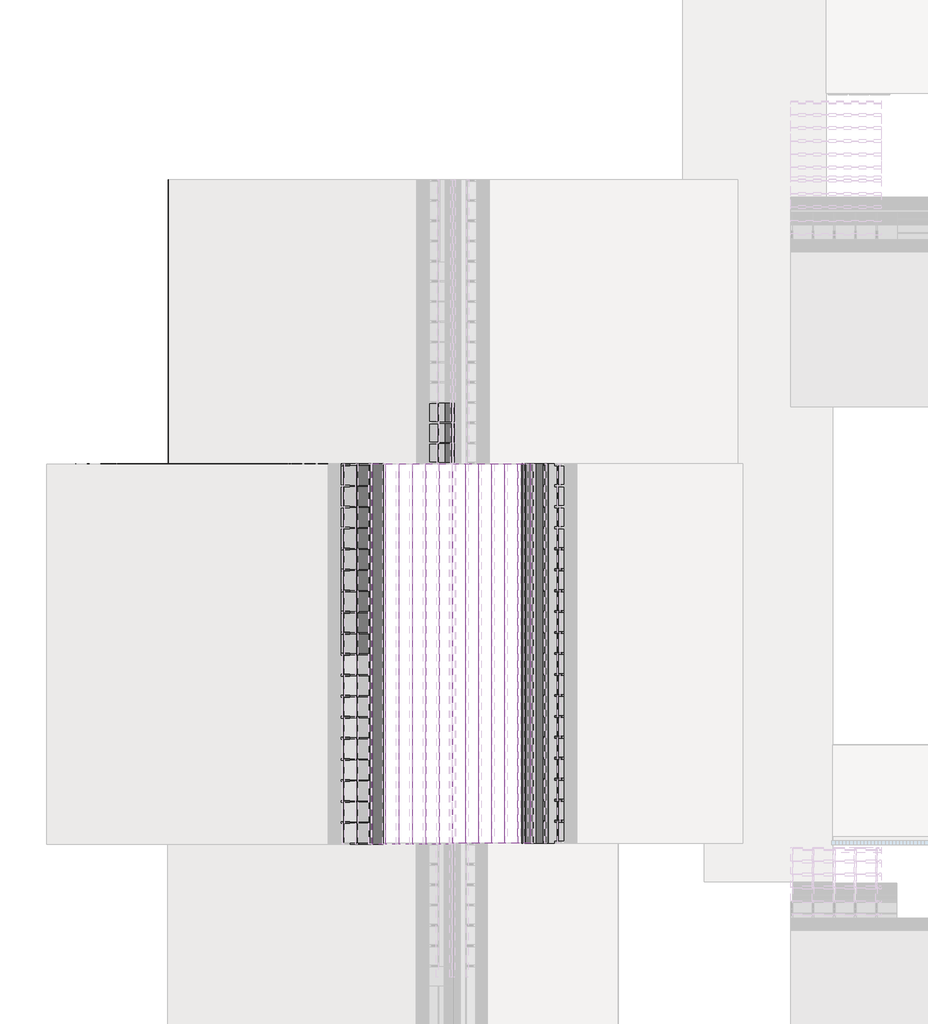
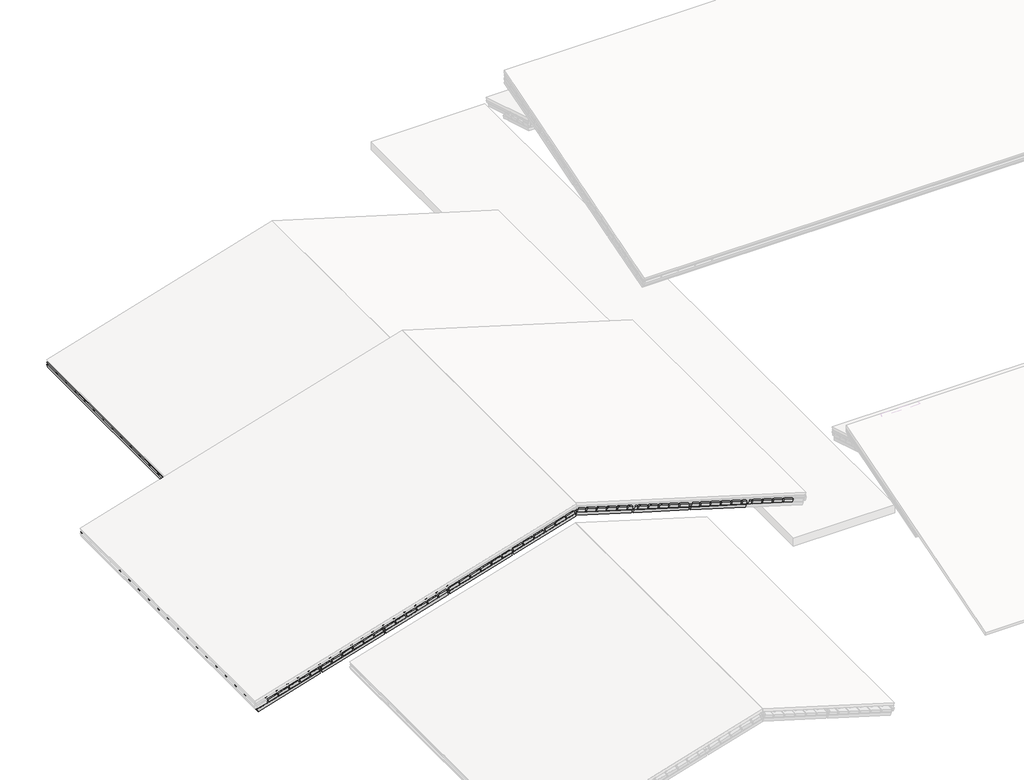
# One storey, part 4 of 57: 70 plates, 51 members.
"""IFC4 building model written with IfcOpenShell, lengths in millimetres."""

from ifc_helpers import new_model, si_unit, origin, place, context, project, spatial, transform, mapped, element, save
from components import rectangular_mullion_1995deed, rectangular_mullion_4fee4107, rectangular_mullion_2b643e74, rectangular_mullion_a8aa870b, rectangular_mullion_caibro_ee61b842, rectangular_mullion_caibro_03bd0296, rectangular_mullion_caibro_3e452d7c, empty_system_panel_vazio_172ca776, empty_system_panel_vazio_b4c02b83, empty_system_panel_vazio_a9f1091a, empty_system_panel_vazio_4908c82f, empty_system_panel_vazio_d975564d, empty_system_panel_vazio_18ed3327

model = new_model("IFC4")

# Units and contexts
model_context = context("Model", 3, world=origin())
ifc_project = project(units=[si_unit("LENGTHUNIT", "METRE", prefix="MILLI")], contexts=[model_context])

# Site, building, storey
site = spatial("IfcSite", under=ifc_project)
building = spatial("IfcBuilding", under=site)
storey = spatial("IfcBuildingStorey", under=building, Name="Nível 2", Elevation=4100.0)

# Members
placement = place(None, origin())
rectangular_mullion_shape = rectangular_mullion_1995deed(model_context)
element("IfcMember", 1, ObjectType="Rectangular Mullion : Ripa", at=placement, inside=storey, context=model_context, shape_type="MappedRepresentation", body=[
    mapped(rectangular_mullion_shape, transform((-15744.736659, 26350.3088684, 3030.3181378), x_axis=(-0.9578262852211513, 0.0, -0.2873478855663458), y_axis=(0.2873478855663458, 0.0, -0.9578262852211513), z_axis=(0.0, -1.0, 0.0))),
])
rectangular_mullion_2_shape = rectangular_mullion_4fee4107(model_context)
element("IfcMember", 2, ObjectType="Rectangular Mullion : Terça", at=placement, inside=storey, context=model_context, shape_type="MappedRepresentation", body=[
    mapped(rectangular_mullion_2_shape, transform((-15744.736659, 26350.3088684, 2905.0344596), x_axis=(-0.9578262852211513, 0.0, -0.2873478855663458), y_axis=(0.2873478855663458, 0.0, -0.9578262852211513), z_axis=(0.0, -1.0, 0.0))),
])
rectangular_mullion_3_shape = rectangular_mullion_2b643e74(model_context)
element("IfcMember", 3, ObjectType="Rectangular Mullion : Ripa", at=placement, inside=storey, context=model_context, shape_type="MappedRepresentation", body=[
    mapped(rectangular_mullion_3_shape, transform((-18744.1144383, 26350.3088684, 2878.0214278), x_axis=(0.9578262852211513, 0.0, 0.2873478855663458), y_axis=(0.2873478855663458, 0.0, -0.9578262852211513), z_axis=(0.0, 1.0, 0.0))),
])
element("IfcMember", 4, ObjectType="Rectangular Mullion : Ripa", at=placement, inside=storey, context=model_context, shape_type="MappedRepresentation", body=[
    mapped(rectangular_mullion_3_shape, transform((-18366.3281192, 26350.3088684, 2991.3573235), x_axis=(0.9578262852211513, 0.0, 0.2873478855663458), y_axis=(0.2873478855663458, 0.0, -0.9578262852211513), z_axis=(0.0, 1.0, 0.0))),
])
element("IfcMember", 5, ObjectType="Rectangular Mullion : Ripa", at=placement, inside=storey, context=model_context, shape_type="MappedRepresentation", body=[
    mapped(rectangular_mullion_3_shape, transform((-17988.5418001, 26350.3088684, 3104.6932192), x_axis=(0.9578262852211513, 0.0, 0.2873478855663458), y_axis=(0.2873478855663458, 0.0, -0.9578262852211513), z_axis=(0.0, 1.0, 0.0))),
])
element("IfcMember", 6, ObjectType="Rectangular Mullion : Ripa", at=placement, inside=storey, context=model_context, shape_type="MappedRepresentation", body=[
    mapped(rectangular_mullion_3_shape, transform((-17610.755481, 26350.3088684, 3218.029115), x_axis=(0.9578262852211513, 0.0, 0.2873478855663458), y_axis=(0.2873478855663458, 0.0, -0.9578262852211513), z_axis=(0.0, 1.0, 0.0))),
])
element("IfcMember", 7, ObjectType="Rectangular Mullion : Ripa", at=placement, inside=storey, context=model_context, shape_type="MappedRepresentation", body=[
    mapped(rectangular_mullion_3_shape, transform((-17232.9691619, 26350.3088684, 3331.3650107), x_axis=(0.9578262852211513, 0.0, 0.2873478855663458), y_axis=(0.2873478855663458, 0.0, -0.9578262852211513), z_axis=(0.0, 1.0, 0.0))),
])
element("IfcMember", 8, ObjectType="Rectangular Mullion : Ripa", at=placement, inside=storey, context=model_context, shape_type="MappedRepresentation", body=[
    mapped(rectangular_mullion_3_shape, transform((-16855.1828428, 26350.3088684, 3444.7009064), x_axis=(0.9578262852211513, 0.0, 0.2873478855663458), y_axis=(0.2873478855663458, 0.0, -0.9578262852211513), z_axis=(0.0, 1.0, 0.0))),
])
element("IfcMember", 9, ObjectType="Rectangular Mullion : Ripa", at=placement, inside=storey, context=model_context, shape_type="MappedRepresentation", body=[
    mapped(rectangular_mullion_3_shape, transform((-16477.3965237, 26350.3088684, 3558.0368021), x_axis=(0.9578262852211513, 0.0, 0.2873478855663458), y_axis=(0.2873478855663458, 0.0, -0.9578262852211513), z_axis=(0.0, 1.0, 0.0))),
])
element("IfcMember", 10, ObjectType="Rectangular Mullion : Ripa", at=placement, inside=storey, context=model_context, shape_type="MappedRepresentation", body=[
    mapped(rectangular_mullion_3_shape, transform((-16099.6102046, 26350.3088684, 3671.3726979), x_axis=(0.9578262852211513, 0.0, 0.2873478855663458), y_axis=(0.2873478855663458, 0.0, -0.9578262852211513), z_axis=(0.0, 1.0, 0.0))),
])
element("IfcMember", 11, ObjectType="Rectangular Mullion : Ripa", at=placement, inside=storey, context=model_context, shape_type="MappedRepresentation", body=[
    mapped(rectangular_mullion_3_shape, transform((-15721.8238855, 26350.3088684, 3784.7085936), x_axis=(0.9578262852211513, 0.0, 0.2873478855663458), y_axis=(0.2873478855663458, 0.0, -0.9578262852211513), z_axis=(0.0, 1.0, 0.0))),
])
element("IfcMember", 12, ObjectType="Rectangular Mullion : Ripa", at=placement, inside=storey, context=model_context, shape_type="MappedRepresentation", body=[
    mapped(rectangular_mullion_3_shape, transform((-15344.0375664, 26350.3088684, 3898.0444893), x_axis=(0.9578262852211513, 0.0, 0.2873478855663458), y_axis=(0.2873478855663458, 0.0, -0.9578262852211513), z_axis=(0.0, 1.0, 0.0))),
])
element("IfcMember", 13, ObjectType="Rectangular Mullion : Ripa", at=placement, inside=storey, context=model_context, shape_type="MappedRepresentation", body=[
    mapped(rectangular_mullion_3_shape, transform((-14966.2512473, 26350.3088684, 4011.3803851), x_axis=(0.9578262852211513, 0.0, 0.2873478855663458), y_axis=(0.2873478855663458, 0.0, -0.9578262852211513), z_axis=(0.0, 1.0, 0.0))),
])
element("IfcMember", 14, ObjectType="Rectangular Mullion : Ripa", at=placement, inside=storey, context=model_context, shape_type="MappedRepresentation", body=[
    mapped(rectangular_mullion_3_shape, transform((-14588.4649282, 26350.3088684, 4124.7162808), x_axis=(0.9578262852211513, 0.0, 0.2873478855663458), y_axis=(0.2873478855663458, 0.0, -0.9578262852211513), z_axis=(0.0, 1.0, 0.0))),
])
element("IfcMember", 15, ObjectType="Rectangular Mullion : Ripa", at=placement, inside=storey, context=model_context, shape_type="MappedRepresentation", body=[
    mapped(rectangular_mullion_3_shape, transform((-14210.6786091, 26350.3088684, 4238.0521765), x_axis=(0.9578262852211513, 0.0, 0.2873478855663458), y_axis=(0.2873478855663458, 0.0, -0.9578262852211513), z_axis=(0.0, 1.0, 0.0))),
])
element("IfcMember", 16, ObjectType="Rectangular Mullion : Ripa", at=placement, inside=storey, context=model_context, shape_type="MappedRepresentation", body=[
    mapped(rectangular_mullion_3_shape, transform((-13832.89229, 26350.3088684, 4351.3880723), x_axis=(0.9578262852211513, 0.0, 0.2873478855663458), y_axis=(0.2873478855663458, 0.0, -0.9578262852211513), z_axis=(0.0, 1.0, 0.0))),
])
element("IfcMember", 17, ObjectType="Rectangular Mullion : Ripa", at=placement, inside=storey, context=model_context, shape_type="MappedRepresentation", body=[
    mapped(rectangular_mullion_3_shape, transform((-13455.1059709, 26350.3088684, 4464.723968), x_axis=(0.9578262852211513, 0.0, 0.2873478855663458), y_axis=(0.2873478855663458, 0.0, -0.9578262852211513), z_axis=(0.0, 1.0, 0.0))),
])
element("IfcMember", 18, ObjectType="Rectangular Mullion : Ripa", at=placement, inside=storey, context=model_context, shape_type="MappedRepresentation", body=[
    mapped(rectangular_mullion_3_shape, transform((-13077.3196518, 26350.3088684, 4578.0598637), x_axis=(0.9578262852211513, 0.0, 0.2873478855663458), y_axis=(0.2873478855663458, 0.0, -0.9578262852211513), z_axis=(0.0, 1.0, 0.0))),
])
element("IfcMember", 19, ObjectType="Rectangular Mullion : Ripa", at=placement, inside=storey, context=model_context, shape_type="MappedRepresentation", body=[
    mapped(rectangular_mullion_3_shape, transform((-12699.5333327, 26350.3088684, 4691.3957595), x_axis=(0.9578262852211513, 0.0, 0.2873478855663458), y_axis=(0.2873478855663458, 0.0, -0.9578262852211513), z_axis=(0.0, 1.0, 0.0))),
])
element("IfcMember", 20, ObjectType="Rectangular Mullion : Ripa", at=placement, inside=storey, context=model_context, shape_type="MappedRepresentation", body=[
    mapped(rectangular_mullion_3_shape, transform((-12321.7470136, 26350.3088684, 4804.7316552), x_axis=(0.9578262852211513, 0.0, 0.2873478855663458), y_axis=(0.2873478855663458, 0.0, -0.9578262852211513), z_axis=(0.0, 1.0, 0.0))),
])
rectangular_mullion_4_shape = rectangular_mullion_a8aa870b(model_context)
element("IfcMember", 21, ObjectType="Rectangular Mullion : Terça", at=placement, inside=storey, context=model_context, shape_type="MappedRepresentation", body=[
    mapped(rectangular_mullion_4_shape, transform((-16876.2550211, 26350.3088684, 3313.0955748), x_axis=(0.9578262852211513, 0.0, 0.2873478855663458), y_axis=(0.2873478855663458, 0.0, -0.9578262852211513), z_axis=(0.0, 1.0, 0.0))),
])
element("IfcMember", 22, ObjectType="Rectangular Mullion : Terça", at=placement, inside=storey, context=model_context, shape_type="MappedRepresentation", body=[
    mapped(rectangular_mullion_4_shape, transform((-14611.452759, 26350.3088684, 3992.5362534), x_axis=(0.9578262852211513, 0.0, 0.2873478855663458), y_axis=(0.2873478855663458, 0.0, -0.9578262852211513), z_axis=(0.0, 1.0, 0.0))),
])
rectangular_mullion_caibro_shape = rectangular_mullion_caibro_ee61b842(model_context)
element("IfcMember", 23, ObjectType="Rectangular Mullion : Caibro", at=placement, inside=storey, context=model_context, shape_type="MappedRepresentation", body=[
    mapped(rectangular_mullion_caibro_shape, transform((-19169.7920717, 26350.3088684, 2750.3181378), x_axis=(0.0, 1.0, 0.0), y_axis=(0.2873478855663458, 0.0, -0.9578262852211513), z_axis=(-0.9578262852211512, 0.0, -0.2873478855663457))),
])
rectangular_mullion_caibro_2_shape = rectangular_mullion_caibro_03bd0296(model_context)
element("IfcMember", 24, ObjectType="Rectangular Mullion : Caibro", at=placement, inside=storey, context=model_context, shape_type="MappedRepresentation", body=[
    mapped(rectangular_mullion_caibro_2_shape, transform((-7788.3111843, 23958.6407606, 6164.762404), x_axis=(0.0, -1.0, 0.0), y_axis=(0.2873478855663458, 0.0, -0.9578262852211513), z_axis=(0.9578262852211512, 0.0, 0.2873478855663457))),
])
element("IfcMember", 25, ObjectType="Rectangular Mullion : Caibro", at=placement, inside=storey, context=model_context, shape_type="MappedRepresentation", body=[
    mapped(rectangular_mullion_caibro_2_shape, transform((-7788.3111843, 23366.9737338, 6164.762404), x_axis=(0.0, -1.0, 0.0), y_axis=(0.2873478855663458, 0.0, -0.9578262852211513), z_axis=(0.9578262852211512, 0.0, 0.2873478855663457))),
])
element("IfcMember", 26, ObjectType="Rectangular Mullion : Caibro", at=placement, inside=storey, context=model_context, shape_type="MappedRepresentation", body=[
    mapped(rectangular_mullion_caibro_2_shape, transform((-7788.3111843, 22775.3067069, 6164.762404), x_axis=(0.0, -1.0, 0.0), y_axis=(0.2873478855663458, 0.0, -0.9578262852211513), z_axis=(0.9578262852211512, 0.0, 0.2873478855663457))),
])
element("IfcMember", 27, ObjectType="Rectangular Mullion : Caibro", at=placement, inside=storey, context=model_context, shape_type="MappedRepresentation", body=[
    mapped(rectangular_mullion_caibro_2_shape, transform((-7788.3111843, 22183.6396801, 6164.762404), x_axis=(0.0, -1.0, 0.0), y_axis=(0.2873478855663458, 0.0, -0.9578262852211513), z_axis=(0.9578262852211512, 0.0, 0.2873478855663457))),
])
element("IfcMember", 28, ObjectType="Rectangular Mullion : Caibro", at=placement, inside=storey, context=model_context, shape_type="MappedRepresentation", body=[
    mapped(rectangular_mullion_caibro_2_shape, transform((-7788.3111843, 21591.9726532, 6164.762404), x_axis=(0.0, -1.0, 0.0), y_axis=(0.2873478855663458, 0.0, -0.9578262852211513), z_axis=(0.9578262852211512, 0.0, 0.2873478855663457))),
])
element("IfcMember", 29, ObjectType="Rectangular Mullion : Caibro", at=placement, inside=storey, context=model_context, shape_type="MappedRepresentation", body=[
    mapped(rectangular_mullion_caibro_2_shape, transform((-7788.3111843, 21000.3056264, 6164.762404), x_axis=(0.0, -1.0, 0.0), y_axis=(0.2873478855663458, 0.0, -0.9578262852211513), z_axis=(0.9578262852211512, 0.0, 0.2873478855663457))),
])
element("IfcMember", 30, ObjectType="Rectangular Mullion : Caibro", at=placement, inside=storey, context=model_context, shape_type="MappedRepresentation", body=[
    mapped(rectangular_mullion_caibro_2_shape, transform((-7788.3111843, 20408.6385995, 6164.762404), x_axis=(0.0, -1.0, 0.0), y_axis=(0.2873478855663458, 0.0, -0.9578262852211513), z_axis=(0.9578262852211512, 0.0, 0.2873478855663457))),
])
element("IfcMember", 31, ObjectType="Rectangular Mullion : Caibro", at=placement, inside=storey, context=model_context, shape_type="MappedRepresentation", body=[
    mapped(rectangular_mullion_caibro_2_shape, transform((-7788.3111843, 19816.9715726, 6164.762404), x_axis=(0.0, -1.0, 0.0), y_axis=(0.2873478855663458, 0.0, -0.9578262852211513), z_axis=(0.9578262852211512, 0.0, 0.2873478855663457))),
])
element("IfcMember", 32, ObjectType="Rectangular Mullion : Caibro", at=placement, inside=storey, context=model_context, shape_type="MappedRepresentation", body=[
    mapped(rectangular_mullion_caibro_2_shape, transform((-7788.3111843, 19225.3045458, 6164.762404), x_axis=(0.0, -1.0, 0.0), y_axis=(0.2873478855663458, 0.0, -0.9578262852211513), z_axis=(0.9578262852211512, 0.0, 0.2873478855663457))),
])
element("IfcMember", 33, ObjectType="Rectangular Mullion : Caibro", at=placement, inside=storey, context=model_context, shape_type="MappedRepresentation", body=[
    mapped(rectangular_mullion_caibro_2_shape, transform((-7788.3111843, 18633.6375189, 6164.762404), x_axis=(0.0, -1.0, 0.0), y_axis=(0.2873478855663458, 0.0, -0.9578262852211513), z_axis=(0.9578262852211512, 0.0, 0.2873478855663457))),
])
element("IfcMember", 34, ObjectType="Rectangular Mullion : Caibro", at=placement, inside=storey, context=model_context, shape_type="MappedRepresentation", body=[
    mapped(rectangular_mullion_caibro_2_shape, transform((-7788.3111843, 18041.9704921, 6164.762404), x_axis=(0.0, -1.0, 0.0), y_axis=(0.2873478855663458, 0.0, -0.9578262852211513), z_axis=(0.9578262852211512, 0.0, 0.2873478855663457))),
])
element("IfcMember", 35, ObjectType="Rectangular Mullion : Caibro", at=placement, inside=storey, context=model_context, shape_type="MappedRepresentation", body=[
    mapped(rectangular_mullion_caibro_2_shape, transform((-7788.3111843, 17450.3034652, 6164.762404), x_axis=(0.0, -1.0, 0.0), y_axis=(0.2873478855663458, 0.0, -0.9578262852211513), z_axis=(0.9578262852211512, 0.0, 0.2873478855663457))),
])
element("IfcMember", 36, ObjectType="Rectangular Mullion : Caibro", at=placement, inside=storey, context=model_context, shape_type="MappedRepresentation", body=[
    mapped(rectangular_mullion_caibro_2_shape, transform((-7788.3111843, 16858.6364384, 6164.762404), x_axis=(0.0, -1.0, 0.0), y_axis=(0.2873478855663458, 0.0, -0.9578262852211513), z_axis=(0.9578262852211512, 0.0, 0.2873478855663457))),
])
element("IfcMember", 37, ObjectType="Rectangular Mullion : Caibro", at=placement, inside=storey, context=model_context, shape_type="MappedRepresentation", body=[
    mapped(rectangular_mullion_caibro_2_shape, transform((-7788.3111843, 16266.9694115, 6164.762404), x_axis=(0.0, -1.0, 0.0), y_axis=(0.2873478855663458, 0.0, -0.9578262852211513), z_axis=(0.9578262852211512, 0.0, 0.2873478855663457))),
])
rectangular_mullion_caibro_3_shape = rectangular_mullion_caibro_3e452d7c(model_context)
element("IfcMember", 38, ObjectType="Rectangular Mullion : Caibro", at=placement, inside=storey, context=model_context, shape_type="MappedRepresentation", body=[
    mapped(rectangular_mullion_caibro_3_shape, transform((-7788.3111843, 16304.6228859, 6164.8996222), x_axis=(0.0, 1.0, 0.0), y_axis=(-0.287347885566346, 0.0, -0.9578262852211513), z_axis=(-0.9578262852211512, 0.0, 0.28734788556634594))),
])
element("IfcMember", 39, ObjectType="Rectangular Mullion : Caibro", at=placement, inside=storey, context=model_context, shape_type="MappedRepresentation", body=[
    mapped(rectangular_mullion_caibro_3_shape, transform((-7788.3111843, 16894.0750025, 6164.8996222), x_axis=(0.0, 1.0, 0.0), y_axis=(-0.287347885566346, 0.0, -0.9578262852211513), z_axis=(-0.9578262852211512, 0.0, 0.28734788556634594))),
])
element("IfcMember", 40, ObjectType="Rectangular Mullion : Caibro", at=placement, inside=storey, context=model_context, shape_type="MappedRepresentation", body=[
    mapped(rectangular_mullion_caibro_3_shape, transform((-7788.3111843, 17483.5271191, 6164.8996222), x_axis=(0.0, 1.0, 0.0), y_axis=(-0.287347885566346, 0.0, -0.9578262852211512), z_axis=(-0.9578262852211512, 0.0, 0.287347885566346))),
])
element("IfcMember", 41, ObjectType="Rectangular Mullion : Caibro", at=placement, inside=storey, context=model_context, shape_type="MappedRepresentation", body=[
    mapped(rectangular_mullion_caibro_3_shape, transform((-7788.3111843, 18072.9792357, 6164.8996222), x_axis=(0.0, 1.0, 0.0), y_axis=(-0.287347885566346, 0.0, -0.9578262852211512), z_axis=(-0.9578262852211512, 0.0, 0.287347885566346))),
])
element("IfcMember", 42, ObjectType="Rectangular Mullion : Caibro", at=placement, inside=storey, context=model_context, shape_type="MappedRepresentation", body=[
    mapped(rectangular_mullion_caibro_3_shape, transform((-7788.3111843, 18662.4313523, 6164.8996222), x_axis=(0.0, 1.0, 0.0), y_axis=(-0.287347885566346, 0.0, -0.9578262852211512), z_axis=(-0.9578262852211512, 0.0, 0.287347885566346))),
])
element("IfcMember", 43, ObjectType="Rectangular Mullion : Caibro", at=placement, inside=storey, context=model_context, shape_type="MappedRepresentation", body=[
    mapped(rectangular_mullion_caibro_3_shape, transform((-7788.3111843, 19251.8834689, 6164.8996222), x_axis=(0.0, 1.0, 0.0), y_axis=(-0.287347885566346, 0.0, -0.9578262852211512), z_axis=(-0.9578262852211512, 0.0, 0.287347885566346))),
])
element("IfcMember", 44, ObjectType="Rectangular Mullion : Caibro", at=placement, inside=storey, context=model_context, shape_type="MappedRepresentation", body=[
    mapped(rectangular_mullion_caibro_3_shape, transform((-7788.3111843, 19841.3355855, 6164.8996222), x_axis=(0.0, 1.0, 0.0), y_axis=(-0.287347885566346, 0.0, -0.9578262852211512), z_axis=(-0.9578262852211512, 0.0, 0.287347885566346))),
])
element("IfcMember", 45, ObjectType="Rectangular Mullion : Caibro", at=placement, inside=storey, context=model_context, shape_type="MappedRepresentation", body=[
    mapped(rectangular_mullion_caibro_3_shape, transform((-7788.3111843, 20430.7877021, 6164.8996222), x_axis=(0.0, 1.0, 0.0), y_axis=(-0.287347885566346, 0.0, -0.9578262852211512), z_axis=(-0.9578262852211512, 0.0, 0.287347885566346))),
])
element("IfcMember", 46, ObjectType="Rectangular Mullion : Caibro", at=placement, inside=storey, context=model_context, shape_type="MappedRepresentation", body=[
    mapped(rectangular_mullion_caibro_3_shape, transform((-7788.3111843, 21020.2398187, 6164.8996222), x_axis=(0.0, 1.0, 0.0), y_axis=(-0.287347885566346, 0.0, -0.9578262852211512), z_axis=(-0.9578262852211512, 0.0, 0.287347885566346))),
])
element("IfcMember", 47, ObjectType="Rectangular Mullion : Caibro", at=placement, inside=storey, context=model_context, shape_type="MappedRepresentation", body=[
    mapped(rectangular_mullion_caibro_3_shape, transform((-7788.3111843, 21609.6919353, 6164.8996222), x_axis=(0.0, 1.0, 0.0), y_axis=(-0.287347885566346, 0.0, -0.9578262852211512), z_axis=(-0.9578262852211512, 0.0, 0.287347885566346))),
])
element("IfcMember", 48, ObjectType="Rectangular Mullion : Caibro", at=placement, inside=storey, context=model_context, shape_type="MappedRepresentation", body=[
    mapped(rectangular_mullion_caibro_3_shape, transform((-7788.3111843, 22199.1440519, 6164.8996222), x_axis=(0.0, 1.0, 0.0), y_axis=(-0.287347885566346, 0.0, -0.9578262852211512), z_axis=(-0.9578262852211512, 0.0, 0.287347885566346))),
])
element("IfcMember", 49, ObjectType="Rectangular Mullion : Caibro", at=placement, inside=storey, context=model_context, shape_type="MappedRepresentation", body=[
    mapped(rectangular_mullion_caibro_3_shape, transform((-7788.3111843, 22788.5961685, 6164.8996222), x_axis=(0.0, 1.0, 0.0), y_axis=(-0.287347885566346, 0.0, -0.9578262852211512), z_axis=(-0.9578262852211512, 0.0, 0.287347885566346))),
])
element("IfcMember", 50, ObjectType="Rectangular Mullion : Caibro", at=placement, inside=storey, context=model_context, shape_type="MappedRepresentation", body=[
    mapped(rectangular_mullion_caibro_3_shape, transform((-7788.3111843, 23378.0482851, 6164.8996222), x_axis=(0.0, 1.0, 0.0), y_axis=(-0.287347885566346, 0.0, -0.9578262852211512), z_axis=(-0.9578262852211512, 0.0, 0.287347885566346))),
])
element("IfcMember", 51, ObjectType="Rectangular Mullion : Caibro", at=placement, inside=storey, context=model_context, shape_type="MappedRepresentation", body=[
    mapped(rectangular_mullion_caibro_3_shape, transform((-7788.3111843, 23967.5004017, 6164.8996222), x_axis=(0.0, 1.0, 0.0), y_axis=(-0.287347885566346, 0.0, -0.9578262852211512), z_axis=(-0.9578262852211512, 0.0, 0.287347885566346))),
])

# Plates
empty_system_panel_vazio_shape = empty_system_panel_vazio_172ca776(model_context)
element("IfcPlate", 52, ObjectType="Empty System Panel : Vazio", at=placement, inside=storey, context=model_context, shape_type="MappedRepresentation", body=[
    mapped(empty_system_panel_vazio_shape, transform((-15744.736659, 27794.9517257, 3030.3181378), x_axis=(0.0, -1.0, 0.0), y_axis=(0.2873478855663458, 0.0, -0.9578262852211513), z_axis=(0.9578262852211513, 0.0, 0.2873478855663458))),
])
element("IfcPlate", 53, ObjectType="Empty System Panel : Vazio", at=placement, inside=storey, context=model_context, shape_type="MappedRepresentation", body=[
    mapped(empty_system_panel_vazio_shape, transform((-15744.736659, 27227.0945829, 3030.3181378), x_axis=(0.0, -1.0, 0.0), y_axis=(0.2873478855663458, 0.0, -0.9578262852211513), z_axis=(0.9578262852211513, 0.0, 0.2873478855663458))),
])
element("IfcPlate", 54, ObjectType="Empty System Panel : Vazio", at=placement, inside=storey, context=model_context, shape_type="MappedRepresentation", body=[
    mapped(empty_system_panel_vazio_shape, transform((-15744.736659, 26659.2374399, 3030.3181378), x_axis=(0.0, -1.0, 0.0), y_axis=(0.2873478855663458, 0.0, -0.9578262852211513), z_axis=(0.9578262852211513, 0.0, 0.2873478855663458))),
])
empty_system_panel_vazio_2_shape = empty_system_panel_vazio_b4c02b83(model_context)
element("IfcPlate", 55, ObjectType="Empty System Panel : Vazio", at=placement, inside=storey, context=model_context, shape_type="MappedRepresentation", body=[
    mapped(empty_system_panel_vazio_2_shape, transform((-18744.1144383, 21000.3056264, 2878.0214278), x_axis=(0.0, -1.0, 0.0), y_axis=(0.2873478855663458, 0.0, -0.9578262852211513), z_axis=(0.9578262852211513, 0.0, 0.2873478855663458))),
])
element("IfcPlate", 56, ObjectType="Empty System Panel : Vazio", at=placement, inside=storey, context=model_context, shape_type="MappedRepresentation", body=[
    mapped(empty_system_panel_vazio_2_shape, transform((-18366.3281192, 21000.3056264, 2991.3573235), x_axis=(0.0, -1.0, 0.0), y_axis=(0.2873478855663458, 0.0, -0.9578262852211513), z_axis=(0.9578262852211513, 0.0, 0.2873478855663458))),
])
element("IfcPlate", 57, ObjectType="Empty System Panel : Vazio", at=placement, inside=storey, context=model_context, shape_type="MappedRepresentation", body=[
    mapped(empty_system_panel_vazio_2_shape, transform((-17988.5418001, 21000.3056264, 3104.6932192), x_axis=(0.0, -1.0, 0.0), y_axis=(0.2873478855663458, 0.0, -0.9578262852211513), z_axis=(0.9578262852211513, 0.0, 0.2873478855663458))),
])
element("IfcPlate", 58, ObjectType="Empty System Panel : Vazio", at=placement, inside=storey, context=model_context, shape_type="MappedRepresentation", body=[
    mapped(empty_system_panel_vazio_2_shape, transform((-17610.755481, 21000.3056264, 3218.029115), x_axis=(0.0, -1.0, 0.0), y_axis=(0.2873478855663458, 0.0, -0.9578262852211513), z_axis=(0.9578262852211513, 0.0, 0.2873478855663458))),
])
element("IfcPlate", 59, ObjectType="Empty System Panel : Vazio", at=placement, inside=storey, context=model_context, shape_type="MappedRepresentation", body=[
    mapped(empty_system_panel_vazio_2_shape, transform((-17232.9691619, 21000.3056264, 3331.3650107), x_axis=(0.0, -1.0, 0.0), y_axis=(0.2873478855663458, 0.0, -0.9578262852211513), z_axis=(0.9578262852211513, 0.0, 0.2873478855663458))),
])
element("IfcPlate", 60, ObjectType="Empty System Panel : Vazio", at=placement, inside=storey, context=model_context, shape_type="MappedRepresentation", body=[
    mapped(empty_system_panel_vazio_2_shape, transform((-16855.1828428, 21000.3056264, 3444.7009064), x_axis=(0.0, -1.0, 0.0), y_axis=(0.2873478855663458, 0.0, -0.9578262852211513), z_axis=(0.9578262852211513, 0.0, 0.2873478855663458))),
])
element("IfcPlate", 61, ObjectType="Empty System Panel : Vazio", at=placement, inside=storey, context=model_context, shape_type="MappedRepresentation", body=[
    mapped(empty_system_panel_vazio_2_shape, transform((-16477.3965237, 21000.3056264, 3558.0368021), x_axis=(0.0, -1.0, 0.0), y_axis=(0.2873478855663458, 0.0, -0.9578262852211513), z_axis=(0.9578262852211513, 0.0, 0.2873478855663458))),
])
element("IfcPlate", 62, ObjectType="Empty System Panel : Vazio", at=placement, inside=storey, context=model_context, shape_type="MappedRepresentation", body=[
    mapped(empty_system_panel_vazio_2_shape, transform((-16099.6102046, 21000.3056264, 3671.3726979), x_axis=(0.0, -1.0, 0.0), y_axis=(0.2873478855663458, 0.0, -0.9578262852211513), z_axis=(0.9578262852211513, 0.0, 0.2873478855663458))),
])
element("IfcPlate", 63, ObjectType="Empty System Panel : Vazio", at=placement, inside=storey, context=model_context, shape_type="MappedRepresentation", body=[
    mapped(empty_system_panel_vazio_2_shape, transform((-15721.8238855, 21000.3056264, 3784.7085936), x_axis=(0.0, -1.0, 0.0), y_axis=(0.2873478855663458, 0.0, -0.9578262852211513), z_axis=(0.9578262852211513, 0.0, 0.2873478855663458))),
])
element("IfcPlate", 64, ObjectType="Empty System Panel : Vazio", at=placement, inside=storey, context=model_context, shape_type="MappedRepresentation", body=[
    mapped(empty_system_panel_vazio_2_shape, transform((-15344.0375664, 21000.3056264, 3898.0444893), x_axis=(0.0, -1.0, 0.0), y_axis=(0.2873478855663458, 0.0, -0.9578262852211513), z_axis=(0.9578262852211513, 0.0, 0.2873478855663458))),
])
element("IfcPlate", 65, ObjectType="Empty System Panel : Vazio", at=placement, inside=storey, context=model_context, shape_type="MappedRepresentation", body=[
    mapped(empty_system_panel_vazio_2_shape, transform((-14966.2512473, 21000.3056264, 4011.3803851), x_axis=(0.0, -1.0, 0.0), y_axis=(0.2873478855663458, 0.0, -0.9578262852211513), z_axis=(0.9578262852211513, 0.0, 0.2873478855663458))),
])
element("IfcPlate", 66, ObjectType="Empty System Panel : Vazio", at=placement, inside=storey, context=model_context, shape_type="MappedRepresentation", body=[
    mapped(empty_system_panel_vazio_2_shape, transform((-14588.4649282, 21000.3056264, 4124.7162808), x_axis=(0.0, -1.0, 0.0), y_axis=(0.2873478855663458, 0.0, -0.9578262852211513), z_axis=(0.9578262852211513, 0.0, 0.2873478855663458))),
])
element("IfcPlate", 67, ObjectType="Empty System Panel : Vazio", at=placement, inside=storey, context=model_context, shape_type="MappedRepresentation", body=[
    mapped(empty_system_panel_vazio_2_shape, transform((-14210.6786091, 21000.3056264, 4238.0521765), x_axis=(0.0, -1.0, 0.0), y_axis=(0.2873478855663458, 0.0, -0.9578262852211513), z_axis=(0.9578262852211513, 0.0, 0.2873478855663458))),
])
element("IfcPlate", 68, ObjectType="Empty System Panel : Vazio", at=placement, inside=storey, context=model_context, shape_type="MappedRepresentation", body=[
    mapped(empty_system_panel_vazio_2_shape, transform((-13832.89229, 21000.3056264, 4351.3880723), x_axis=(0.0, -1.0, 0.0), y_axis=(0.2873478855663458, 0.0, -0.9578262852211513), z_axis=(0.9578262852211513, 0.0, 0.2873478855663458))),
])
element("IfcPlate", 69, ObjectType="Empty System Panel : Vazio", at=placement, inside=storey, context=model_context, shape_type="MappedRepresentation", body=[
    mapped(empty_system_panel_vazio_2_shape, transform((-13455.1059709, 21000.3056264, 4464.723968), x_axis=(0.0, -1.0, 0.0), y_axis=(0.2873478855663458, 0.0, -0.9578262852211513), z_axis=(0.9578262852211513, 0.0, 0.2873478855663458))),
])
element("IfcPlate", 70, ObjectType="Empty System Panel : Vazio", at=placement, inside=storey, context=model_context, shape_type="MappedRepresentation", body=[
    mapped(empty_system_panel_vazio_2_shape, transform((-13077.3196518, 21000.3056264, 4578.0598637), x_axis=(0.0, -1.0, 0.0), y_axis=(0.2873478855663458, 0.0, -0.9578262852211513), z_axis=(0.9578262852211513, 0.0, 0.2873478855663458))),
])
element("IfcPlate", 71, ObjectType="Empty System Panel : Vazio", at=placement, inside=storey, context=model_context, shape_type="MappedRepresentation", body=[
    mapped(empty_system_panel_vazio_2_shape, transform((-12699.5333327, 21000.3056264, 4691.3957595), x_axis=(0.0, -1.0, 0.0), y_axis=(0.2873478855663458, 0.0, -0.9578262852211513), z_axis=(0.9578262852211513, 0.0, 0.2873478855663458))),
])
element("IfcPlate", 72, ObjectType="Empty System Panel : Vazio", at=placement, inside=storey, context=model_context, shape_type="MappedRepresentation", body=[
    mapped(empty_system_panel_vazio_2_shape, transform((-12321.7470136, 21000.3056264, 4804.7316552), x_axis=(0.0, -1.0, 0.0), y_axis=(0.2873478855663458, 0.0, -0.9578262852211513), z_axis=(0.9578262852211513, 0.0, 0.2873478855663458))),
])
element("IfcPlate", 73, ObjectType="Empty System Panel : Vazio", at=placement, inside=storey, context=model_context, shape_type="MappedRepresentation", body=[
    mapped(empty_system_panel_vazio_2_shape, transform((-11943.9606945, 21000.3056264, 4918.0675509), x_axis=(0.0, -1.0, 0.0), y_axis=(0.2873478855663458, 0.0, -0.9578262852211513), z_axis=(0.9578262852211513, 0.0, 0.2873478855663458))),
])
element("IfcPlate", 74, ObjectType="Empty System Panel : Vazio", at=placement, inside=storey, context=model_context, shape_type="MappedRepresentation", body=[
    mapped(empty_system_panel_vazio_2_shape, transform((-11566.1743753, 21000.3056264, 5031.4034467), x_axis=(0.0, -1.0, 0.0), y_axis=(0.2873478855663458, 0.0, -0.9578262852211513), z_axis=(0.9578262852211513, 0.0, 0.2873478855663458))),
])
element("IfcPlate", 75, ObjectType="Empty System Panel : Vazio", at=placement, inside=storey, context=model_context, shape_type="MappedRepresentation", body=[
    mapped(empty_system_panel_vazio_2_shape, transform((-11188.3880562, 21000.3056264, 5144.7393424), x_axis=(0.0, -1.0, 0.0), y_axis=(0.2873478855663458, 0.0, -0.9578262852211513), z_axis=(0.9578262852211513, 0.0, 0.2873478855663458))),
])
element("IfcPlate", 76, ObjectType="Empty System Panel : Vazio", at=placement, inside=storey, context=model_context, shape_type="MappedRepresentation", body=[
    mapped(empty_system_panel_vazio_2_shape, transform((-10810.6017371, 21000.3056264, 5258.0752381), x_axis=(0.0, -1.0, 0.0), y_axis=(0.2873478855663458, 0.0, -0.9578262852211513), z_axis=(0.9578262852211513, 0.0, 0.2873478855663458))),
])
element("IfcPlate", 77, ObjectType="Empty System Panel : Vazio", at=placement, inside=storey, context=model_context, shape_type="MappedRepresentation", body=[
    mapped(empty_system_panel_vazio_2_shape, transform((-10432.815418, 21000.3056264, 5371.4111339), x_axis=(0.0, -1.0, 0.0), y_axis=(0.2873478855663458, 0.0, -0.9578262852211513), z_axis=(0.9578262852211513, 0.0, 0.2873478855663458))),
])
element("IfcPlate", 78, ObjectType="Empty System Panel : Vazio", at=placement, inside=storey, context=model_context, shape_type="MappedRepresentation", body=[
    mapped(empty_system_panel_vazio_2_shape, transform((-10055.0290989, 21000.3056264, 5484.7470296), x_axis=(0.0, -1.0, 0.0), y_axis=(0.2873478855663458, 0.0, -0.9578262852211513), z_axis=(0.9578262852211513, 0.0, 0.2873478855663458))),
])
element("IfcPlate", 79, ObjectType="Empty System Panel : Vazio", at=placement, inside=storey, context=model_context, shape_type="MappedRepresentation", body=[
    mapped(empty_system_panel_vazio_2_shape, transform((-9677.2427798, 21000.3056264, 5598.0829253), x_axis=(0.0, -1.0, 0.0), y_axis=(0.2873478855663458, 0.0, -0.9578262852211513), z_axis=(0.9578262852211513, 0.0, 0.2873478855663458))),
])
element("IfcPlate", 80, ObjectType="Empty System Panel : Vazio", at=placement, inside=storey, context=model_context, shape_type="MappedRepresentation", body=[
    mapped(empty_system_panel_vazio_2_shape, transform((-9299.4564607, 21000.3056264, 5711.418821), x_axis=(0.0, -1.0, 0.0), y_axis=(0.2873478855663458, 0.0, -0.9578262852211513), z_axis=(0.9578262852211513, 0.0, 0.2873478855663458))),
])
element("IfcPlate", 81, ObjectType="Empty System Panel : Vazio", at=placement, inside=storey, context=model_context, shape_type="MappedRepresentation", body=[
    mapped(empty_system_panel_vazio_2_shape, transform((-8921.6701416, 21000.3056264, 5824.7547168), x_axis=(0.0, -1.0, 0.0), y_axis=(0.2873478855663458, 0.0, -0.9578262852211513), z_axis=(0.9578262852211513, 0.0, 0.2873478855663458))),
])
element("IfcPlate", 82, ObjectType="Empty System Panel : Vazio", at=placement, inside=storey, context=model_context, shape_type="MappedRepresentation", body=[
    mapped(empty_system_panel_vazio_2_shape, transform((-8543.8838225, 21000.3056264, 5938.0906125), x_axis=(0.0, -1.0, 0.0), y_axis=(0.2873478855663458, 0.0, -0.9578262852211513), z_axis=(0.9578262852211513, 0.0, 0.2873478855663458))),
])
element("IfcPlate", 83, ObjectType="Empty System Panel : Vazio", at=placement, inside=storey, context=model_context, shape_type="MappedRepresentation", body=[
    mapped(empty_system_panel_vazio_2_shape, transform((-8166.0975034, 21000.3056264, 6051.4265082), x_axis=(0.0, -1.0, 0.0), y_axis=(0.2873478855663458, 0.0, -0.9578262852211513), z_axis=(0.9578262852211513, 0.0, 0.2873478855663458))),
])
empty_system_panel_vazio_3_shape = empty_system_panel_vazio_a9f1091a(model_context)
element("IfcPlate", 84, ObjectType="Empty System Panel : Vazio", at=placement, inside=storey, context=model_context, shape_type="MappedRepresentation", body=[
    mapped(empty_system_panel_vazio_3_shape, transform((-19169.7920717, 26029.4753548, 2750.3181378), x_axis=(0.0, -1.0, 0.0), y_axis=(0.2873478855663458, 0.0, -0.9578262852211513), z_axis=(0.9578262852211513, 0.0, 0.2873478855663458))),
])
element("IfcPlate", 85, ObjectType="Empty System Panel : Vazio", at=placement, inside=storey, context=model_context, shape_type="MappedRepresentation", body=[
    mapped(empty_system_panel_vazio_3_shape, transform((-19169.7920717, 25437.8083278, 2750.3181378), x_axis=(0.0, -1.0, 0.0), y_axis=(0.2873478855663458, 0.0, -0.9578262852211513), z_axis=(0.9578262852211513, 0.0, 0.2873478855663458))),
])
element("IfcPlate", 86, ObjectType="Empty System Panel : Vazio", at=placement, inside=storey, context=model_context, shape_type="MappedRepresentation", body=[
    mapped(empty_system_panel_vazio_3_shape, transform((-19169.7920717, 24846.1413009, 2750.3181378), x_axis=(0.0, -1.0, 0.0), y_axis=(0.2873478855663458, 0.0, -0.9578262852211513), z_axis=(0.9578262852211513, 0.0, 0.2873478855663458))),
])
element("IfcPlate", 87, ObjectType="Empty System Panel : Vazio", at=placement, inside=storey, context=model_context, shape_type="MappedRepresentation", body=[
    mapped(empty_system_panel_vazio_3_shape, transform((-19169.7920717, 24254.4742741, 2750.3181378), x_axis=(0.0, -1.0, 0.0), y_axis=(0.2873478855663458, 0.0, -0.9578262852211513), z_axis=(0.9578262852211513, 0.0, 0.2873478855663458))),
])
element("IfcPlate", 88, ObjectType="Empty System Panel : Vazio", at=placement, inside=storey, context=model_context, shape_type="MappedRepresentation", body=[
    mapped(empty_system_panel_vazio_3_shape, transform((-19169.7920717, 23662.8072472, 2750.3181378), x_axis=(0.0, -1.0, 0.0), y_axis=(0.2873478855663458, 0.0, -0.9578262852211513), z_axis=(0.9578262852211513, 0.0, 0.2873478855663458))),
])
element("IfcPlate", 89, ObjectType="Empty System Panel : Vazio", at=placement, inside=storey, context=model_context, shape_type="MappedRepresentation", body=[
    mapped(empty_system_panel_vazio_3_shape, transform((-19169.7920717, 23071.1402204, 2750.3181378), x_axis=(0.0, -1.0, 0.0), y_axis=(0.2873478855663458, 0.0, -0.9578262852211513), z_axis=(0.9578262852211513, 0.0, 0.2873478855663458))),
])
element("IfcPlate", 90, ObjectType="Empty System Panel : Vazio", at=placement, inside=storey, context=model_context, shape_type="MappedRepresentation", body=[
    mapped(empty_system_panel_vazio_3_shape, transform((-19169.7920717, 22479.4731935, 2750.3181378), x_axis=(0.0, -1.0, 0.0), y_axis=(0.2873478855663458, 0.0, -0.9578262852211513), z_axis=(0.9578262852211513, 0.0, 0.2873478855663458))),
])
element("IfcPlate", 91, ObjectType="Empty System Panel : Vazio", at=placement, inside=storey, context=model_context, shape_type="MappedRepresentation", body=[
    mapped(empty_system_panel_vazio_3_shape, transform((-19169.7920717, 21887.8061666, 2750.3181378), x_axis=(0.0, -1.0, 0.0), y_axis=(0.2873478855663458, 0.0, -0.9578262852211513), z_axis=(0.9578262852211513, 0.0, 0.2873478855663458))),
])
element("IfcPlate", 92, ObjectType="Empty System Panel : Vazio", at=placement, inside=storey, context=model_context, shape_type="MappedRepresentation", body=[
    mapped(empty_system_panel_vazio_3_shape, transform((-19169.7920717, 21296.1391398, 2750.3181378), x_axis=(0.0, -1.0, 0.0), y_axis=(0.2873478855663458, 0.0, -0.9578262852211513), z_axis=(0.9578262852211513, 0.0, 0.2873478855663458))),
])
empty_system_panel_vazio_4_shape = empty_system_panel_vazio_4908c82f(model_context)
element("IfcPlate", 93, ObjectType="Empty System Panel : Vazio", at=placement, inside=storey, context=model_context, shape_type="MappedRepresentation", body=[
    mapped(empty_system_panel_vazio_4_shape, transform((-19112.3224946, 21000.3056264, 2642.2753328), x_axis=(0.0, -1.0, 0.0), y_axis=(0.2873478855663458, 0.0, -0.9578262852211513), z_axis=(0.9578262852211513, 0.0, 0.2873478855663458))),
])
element("IfcPlate", 94, ObjectType="Empty System Panel : Vazio", at=placement, inside=storey, context=model_context, shape_type="MappedRepresentation", body=[
    mapped(empty_system_panel_vazio_4_shape, transform((-16847.5202325, 21000.3056264, 3321.7160114), x_axis=(0.0, -1.0, 0.0), y_axis=(0.2873478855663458, 0.0, -0.9578262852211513), z_axis=(0.9578262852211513, 0.0, 0.2873478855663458))),
])
element("IfcPlate", 95, ObjectType="Empty System Panel : Vazio", at=placement, inside=storey, context=model_context, shape_type="MappedRepresentation", body=[
    mapped(empty_system_panel_vazio_4_shape, transform((-14582.7179705, 21000.3056264, 4001.15669), x_axis=(0.0, -1.0, 0.0), y_axis=(0.2873478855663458, 0.0, -0.9578262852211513), z_axis=(0.9578262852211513, 0.0, 0.2873478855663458))),
])
element("IfcPlate", 96, ObjectType="Empty System Panel : Vazio", at=placement, inside=storey, context=model_context, shape_type="MappedRepresentation", body=[
    mapped(empty_system_panel_vazio_4_shape, transform((-12317.9157084, 21000.3056264, 4680.5973686), x_axis=(0.0, -1.0, 0.0), y_axis=(0.2873478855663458, 0.0, -0.9578262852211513), z_axis=(0.9578262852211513, 0.0, 0.2873478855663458))),
])
element("IfcPlate", 97, ObjectType="Empty System Panel : Vazio", at=placement, inside=storey, context=model_context, shape_type="MappedRepresentation", body=[
    mapped(empty_system_panel_vazio_4_shape, transform((-10053.1134464, 21000.3056264, 5360.0380472), x_axis=(0.0, -1.0, 0.0), y_axis=(0.2873478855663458, 0.0, -0.9578262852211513), z_axis=(0.9578262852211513, 0.0, 0.2873478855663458))),
])
empty_system_panel_vazio_5_shape = empty_system_panel_vazio_d975564d(model_context)
element("IfcPlate", 98, ObjectType="Empty System Panel : Vazio", at=placement, inside=storey, context=model_context, shape_type="MappedRepresentation", body=[
    mapped(empty_system_panel_vazio_5_shape, transform((-1729.334656, 21020.2398187, 4221.9229856), x_axis=(0.0, 1.0, 0.0), y_axis=(-0.287347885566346, 0.0, -0.9578262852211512), z_axis=(-0.9578262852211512, 0.0, 0.287347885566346))),
])
element("IfcPlate", 99, ObjectType="Empty System Panel : Vazio", at=placement, inside=storey, context=model_context, shape_type="MappedRepresentation", body=[
    mapped(empty_system_panel_vazio_5_shape, transform((-3748.9934987, 21020.2398187, 4827.8206384), x_axis=(0.0, 1.0, 0.0), y_axis=(-0.287347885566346, 0.0, -0.9578262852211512), z_axis=(-0.9578262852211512, 0.0, 0.287347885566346))),
])
element("IfcPlate", 100, ObjectType="Empty System Panel : Vazio", at=placement, inside=storey, context=model_context, shape_type="MappedRepresentation", body=[
    mapped(empty_system_panel_vazio_5_shape, transform((-5768.6523415, 21020.2398187, 5433.7182913), x_axis=(0.0, 1.0, 0.0), y_axis=(-0.287347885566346, 0.0, -0.9578262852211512), z_axis=(-0.9578262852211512, 0.0, 0.287347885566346))),
])
empty_system_panel_vazio_6_shape = empty_system_panel_vazio_18ed3327(model_context)
element("IfcPlate", 101, ObjectType="Empty System Panel : Vazio", at=placement, inside=storey, context=model_context, shape_type="MappedRepresentation", body=[
    mapped(empty_system_panel_vazio_6_shape, transform((-67.7436246, 21020.2398187, 3848.7293543), x_axis=(0.0, 1.0, 0.0), y_axis=(-0.287347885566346, 0.0, -0.9578262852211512), z_axis=(-0.9578262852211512, 0.0, 0.287347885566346))),
])
element("IfcPlate", 102, ObjectType="Empty System Panel : Vazio", at=placement, inside=storey, context=model_context, shape_type="MappedRepresentation", body=[
    mapped(empty_system_panel_vazio_6_shape, transform((-435.3896989, 21020.2398187, 3959.0231766), x_axis=(0.0, 1.0, 0.0), y_axis=(-0.287347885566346, 0.0, -0.9578262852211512), z_axis=(-0.9578262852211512, 0.0, 0.287347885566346))),
])
element("IfcPlate", 103, ObjectType="Empty System Panel : Vazio", at=placement, inside=storey, context=model_context, shape_type="MappedRepresentation", body=[
    mapped(empty_system_panel_vazio_6_shape, transform((-803.0357732, 21020.2398187, 4069.3169989), x_axis=(0.0, 1.0, 0.0), y_axis=(-0.287347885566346, 0.0, -0.9578262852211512), z_axis=(-0.9578262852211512, 0.0, 0.287347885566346))),
])
element("IfcPlate", 104, ObjectType="Empty System Panel : Vazio", at=placement, inside=storey, context=model_context, shape_type="MappedRepresentation", body=[
    mapped(empty_system_panel_vazio_6_shape, transform((-1170.6818474, 21020.2398187, 4179.6108212), x_axis=(0.0, 1.0, 0.0), y_axis=(-0.287347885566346, 0.0, -0.9578262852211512), z_axis=(-0.9578262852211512, 0.0, 0.287347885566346))),
])
element("IfcPlate", 105, ObjectType="Empty System Panel : Vazio", at=placement, inside=storey, context=model_context, shape_type="MappedRepresentation", body=[
    mapped(empty_system_panel_vazio_6_shape, transform((-1538.3279217, 21020.2398187, 4289.9046434), x_axis=(0.0, 1.0, 0.0), y_axis=(-0.287347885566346, 0.0, -0.9578262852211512), z_axis=(-0.9578262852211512, 0.0, 0.287347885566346))),
])
element("IfcPlate", 106, ObjectType="Empty System Panel : Vazio", at=placement, inside=storey, context=model_context, shape_type="MappedRepresentation", body=[
    mapped(empty_system_panel_vazio_6_shape, transform((-1905.973996, 21020.2398187, 4400.1984657), x_axis=(0.0, 1.0, 0.0), y_axis=(-0.287347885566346, 0.0, -0.9578262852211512), z_axis=(-0.9578262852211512, 0.0, 0.287347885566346))),
])
element("IfcPlate", 107, ObjectType="Empty System Panel : Vazio", at=placement, inside=storey, context=model_context, shape_type="MappedRepresentation", body=[
    mapped(empty_system_panel_vazio_6_shape, transform((-2273.6200702, 21020.2398187, 4510.492288), x_axis=(0.0, 1.0, 0.0), y_axis=(-0.287347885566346, 0.0, -0.9578262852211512), z_axis=(-0.9578262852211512, 0.0, 0.287347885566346))),
])
element("IfcPlate", 108, ObjectType="Empty System Panel : Vazio", at=placement, inside=storey, context=model_context, shape_type="MappedRepresentation", body=[
    mapped(empty_system_panel_vazio_6_shape, transform((-2641.2661445, 21020.2398187, 4620.7861103), x_axis=(0.0, 1.0, 0.0), y_axis=(-0.287347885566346, 0.0, -0.9578262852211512), z_axis=(-0.9578262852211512, 0.0, 0.287347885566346))),
])
element("IfcPlate", 109, ObjectType="Empty System Panel : Vazio", at=placement, inside=storey, context=model_context, shape_type="MappedRepresentation", body=[
    mapped(empty_system_panel_vazio_6_shape, transform((-3008.9122188, 21020.2398187, 4731.0799326), x_axis=(0.0, 1.0, 0.0), y_axis=(-0.287347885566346, 0.0, -0.9578262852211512), z_axis=(-0.9578262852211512, 0.0, 0.287347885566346))),
])
element("IfcPlate", 110, ObjectType="Empty System Panel : Vazio", at=placement, inside=storey, context=model_context, shape_type="MappedRepresentation", body=[
    mapped(empty_system_panel_vazio_6_shape, transform((-3376.5582931, 21020.2398187, 4841.3737548), x_axis=(0.0, 1.0, 0.0), y_axis=(-0.287347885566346, 0.0, -0.9578262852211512), z_axis=(-0.9578262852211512, 0.0, 0.287347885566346))),
])
element("IfcPlate", 111, ObjectType="Empty System Panel : Vazio", at=placement, inside=storey, context=model_context, shape_type="MappedRepresentation", body=[
    mapped(empty_system_panel_vazio_6_shape, transform((-3744.2043673, 21020.2398187, 4951.6675771), x_axis=(0.0, 1.0, 0.0), y_axis=(-0.287347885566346, 0.0, -0.9578262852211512), z_axis=(-0.9578262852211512, 0.0, 0.287347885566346))),
])
element("IfcPlate", 112, ObjectType="Empty System Panel : Vazio", at=placement, inside=storey, context=model_context, shape_type="MappedRepresentation", body=[
    mapped(empty_system_panel_vazio_6_shape, transform((-4111.8504416, 21020.2398187, 5061.9613994), x_axis=(0.0, 1.0, 0.0), y_axis=(-0.287347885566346, 0.0, -0.9578262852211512), z_axis=(-0.9578262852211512, 0.0, 0.287347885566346))),
])
element("IfcPlate", 113, ObjectType="Empty System Panel : Vazio", at=placement, inside=storey, context=model_context, shape_type="MappedRepresentation", body=[
    mapped(empty_system_panel_vazio_6_shape, transform((-4479.4965159, 21020.2398187, 5172.2552217), x_axis=(0.0, 1.0, 0.0), y_axis=(-0.287347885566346, 0.0, -0.9578262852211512), z_axis=(-0.9578262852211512, 0.0, 0.287347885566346))),
])
element("IfcPlate", 114, ObjectType="Empty System Panel : Vazio", at=placement, inside=storey, context=model_context, shape_type="MappedRepresentation", body=[
    mapped(empty_system_panel_vazio_6_shape, transform((-4847.1425901, 21020.2398187, 5282.549044), x_axis=(0.0, 1.0, 0.0), y_axis=(-0.287347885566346, 0.0, -0.9578262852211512), z_axis=(-0.9578262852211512, 0.0, 0.287347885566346))),
])
element("IfcPlate", 115, ObjectType="Empty System Panel : Vazio", at=placement, inside=storey, context=model_context, shape_type="MappedRepresentation", body=[
    mapped(empty_system_panel_vazio_6_shape, transform((-5214.7886644, 21020.2398187, 5392.8428662), x_axis=(0.0, 1.0, 0.0), y_axis=(-0.287347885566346, 0.0, -0.9578262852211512), z_axis=(-0.9578262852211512, 0.0, 0.287347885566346))),
])
element("IfcPlate", 116, ObjectType="Empty System Panel : Vazio", at=placement, inside=storey, context=model_context, shape_type="MappedRepresentation", body=[
    mapped(empty_system_panel_vazio_6_shape, transform((-5582.4347387, 21020.2398187, 5503.1366885), x_axis=(0.0, 1.0, 0.0), y_axis=(-0.287347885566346, 0.0, -0.9578262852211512), z_axis=(-0.9578262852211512, 0.0, 0.287347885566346))),
])
element("IfcPlate", 117, ObjectType="Empty System Panel : Vazio", at=placement, inside=storey, context=model_context, shape_type="MappedRepresentation", body=[
    mapped(empty_system_panel_vazio_6_shape, transform((-5950.0808129, 21020.2398187, 5613.4305108), x_axis=(0.0, 1.0, 0.0), y_axis=(-0.287347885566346, 0.0, -0.9578262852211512), z_axis=(-0.9578262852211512, 0.0, 0.287347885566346))),
])
element("IfcPlate", 118, ObjectType="Empty System Panel : Vazio", at=placement, inside=storey, context=model_context, shape_type="MappedRepresentation", body=[
    mapped(empty_system_panel_vazio_6_shape, transform((-6317.7268872, 21020.2398187, 5723.7243331), x_axis=(0.0, 1.0, 0.0), y_axis=(-0.287347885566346, 0.0, -0.9578262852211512), z_axis=(-0.9578262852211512, 0.0, 0.287347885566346))),
])
element("IfcPlate", 119, ObjectType="Empty System Panel : Vazio", at=placement, inside=storey, context=model_context, shape_type="MappedRepresentation", body=[
    mapped(empty_system_panel_vazio_6_shape, transform((-6685.3729615, 21020.2398187, 5834.0181554), x_axis=(0.0, 1.0, 0.0), y_axis=(-0.287347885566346, 0.0, -0.9578262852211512), z_axis=(-0.9578262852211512, 0.0, 0.287347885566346))),
])
element("IfcPlate", 120, ObjectType="Empty System Panel : Vazio", at=placement, inside=storey, context=model_context, shape_type="MappedRepresentation", body=[
    mapped(empty_system_panel_vazio_6_shape, transform((-7053.0190358, 21020.2398187, 5944.3119777), x_axis=(0.0, 1.0, 0.0), y_axis=(-0.287347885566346, 0.0, -0.9578262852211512), z_axis=(-0.9578262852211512, 0.0, 0.287347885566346))),
])
element("IfcPlate", 121, ObjectType="Empty System Panel : Vazio", at=placement, inside=storey, context=model_context, shape_type="MappedRepresentation", body=[
    mapped(empty_system_panel_vazio_6_shape, transform((-7420.66511, 21020.2398187, 6054.6057999), x_axis=(0.0, 1.0, 0.0), y_axis=(-0.287347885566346, 0.0, -0.9578262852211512), z_axis=(-0.9578262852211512, 0.0, 0.287347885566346))),
])

save(model, "model.ifc")
